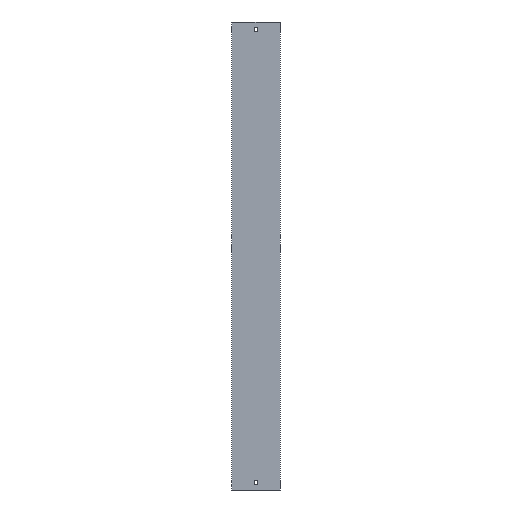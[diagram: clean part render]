
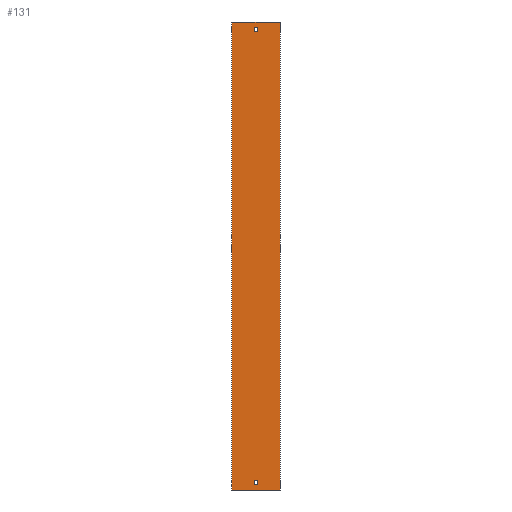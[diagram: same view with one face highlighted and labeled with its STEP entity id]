
A CAD part, front view. The second image highlights one B-rep face of the part: STEP entity #131.
In plain terms, the highlighted planar face has unit normal (0, -1, 0).
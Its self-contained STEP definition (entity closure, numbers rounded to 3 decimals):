
#17 = EDGE_CURVE ( 'NONE', #320, #835, #206, .T. ) ;
#28 = CARTESIAN_POINT ( 'NONE',  ( -3.25, 0., 488. ) ) ;
#37 = VERTEX_POINT ( 'NONE', #90 ) ;
#55 = VERTEX_POINT ( 'NONE', #223 ) ;
#58 = VECTOR ( 'NONE', #1559, 1000. ) ;
#88 = VERTEX_POINT ( 'NONE', #759 ) ;
#90 = CARTESIAN_POINT ( 'NONE',  ( -3.25, 0., -479. ) ) ;
#106 = DIRECTION ( 'NONE',  ( 1., 0., 0. ) ) ;
#126 = DIRECTION ( 'NONE',  ( 0., 0., -1. ) ) ;
#131 = ADVANCED_FACE ( 'NONE', ( #365, #768, #871 ), #1288, .F. ) ;
#178 = ORIENTED_EDGE ( 'NONE', *, *, #1424, .T. ) ;
#182 = LINE ( 'NONE', #456, #572 ) ;
#206 = LINE ( 'NONE', #972, #594 ) ;
#217 = VECTOR ( 'NONE', #126, 1000. ) ;
#223 = CARTESIAN_POINT ( 'NONE',  ( 3.25, 0., 479. ) ) ;
#226 = CARTESIAN_POINT ( 'NONE',  ( 52., 0., 500. ) ) ;
#234 = ORIENTED_EDGE ( 'NONE', *, *, #1678, .F. ) ;
#258 = CARTESIAN_POINT ( 'NONE',  ( 3.25, 0., 488. ) ) ;
#263 = EDGE_CURVE ( 'NONE', #1490, #320, #409, .T. ) ;
#268 = VECTOR ( 'NONE', #634, 1000. ) ;
#289 = LINE ( 'NONE', #1351, #1417 ) ;
#304 = CARTESIAN_POINT ( 'NONE',  ( -3.25, 0., 479. ) ) ;
#310 = CARTESIAN_POINT ( 'NONE',  ( 52., 0., -500. ) ) ;
#320 = VERTEX_POINT ( 'NONE', #1116 ) ;
#348 = AXIS2_PLACEMENT_3D ( 'NONE', #640, #1394, #373 ) ;
#357 = ORIENTED_EDGE ( 'NONE', *, *, #1159, .F. ) ;
#361 = LINE ( 'NONE', #1396, #1114 ) ;
#365 = FACE_OUTER_BOUND ( 'NONE', #1439, .T. ) ;
#368 = ORIENTED_EDGE ( 'NONE', *, *, #381, .T. ) ;
#373 = DIRECTION ( 'NONE',  ( -1., 0., 0. ) ) ;
#381 = EDGE_CURVE ( 'NONE', #1174, #1371, #1615, .T. ) ;
#383 = LINE ( 'NONE', #892, #217 ) ;
#384 = EDGE_LOOP ( 'NONE', ( #357, #1579, #668, #234 ) ) ;
#409 = LINE ( 'NONE', #28, #622 ) ;
#433 = VECTOR ( 'NONE', #443, 1000. ) ;
#443 = DIRECTION ( 'NONE',  ( 0., 0., -1. ) ) ;
#455 = EDGE_CURVE ( 'NONE', #867, #88, #509, .T. ) ;
#456 = CARTESIAN_POINT ( 'NONE',  ( -3.25, 0., 479. ) ) ;
#490 = VECTOR ( 'NONE', #1155, 1000. ) ;
#509 = LINE ( 'NONE', #1010, #1247 ) ;
#510 = LINE ( 'NONE', #1287, #490 ) ;
#572 = VECTOR ( 'NONE', #576, 1000. ) ;
#576 = DIRECTION ( 'NONE',  ( 1., 0., 0. ) ) ;
#589 = DIRECTION ( 'NONE',  ( 0., 0., -1. ) ) ;
#594 = VECTOR ( 'NONE', #589, 1000. ) ;
#622 = VECTOR ( 'NONE', #1449, 1000. ) ;
#634 = DIRECTION ( 'NONE',  ( 1., 0., 0. ) ) ;
#640 = CARTESIAN_POINT ( 'NONE',  ( -52., 0., 500. ) ) ;
#649 = CARTESIAN_POINT ( 'NONE',  ( -3.25, 0., -488. ) ) ;
#668 = ORIENTED_EDGE ( 'NONE', *, *, #263, .F. ) ;
#697 = CARTESIAN_POINT ( 'NONE',  ( 3.25, 0., -488. ) ) ;
#705 = VECTOR ( 'NONE', #1622, 1000. ) ;
#759 = CARTESIAN_POINT ( 'NONE',  ( -52., 0., -500. ) ) ;
#768 = FACE_BOUND ( 'NONE', #384, .T. ) ;
#824 = CARTESIAN_POINT ( 'NONE',  ( 52., 0., 500. ) ) ;
#826 = CARTESIAN_POINT ( 'NONE',  ( -3.25, 0., -488. ) ) ;
#835 = VERTEX_POINT ( 'NONE', #304 ) ;
#838 = EDGE_CURVE ( 'NONE', #932, #1568, #1605, .T. ) ;
#848 = VERTEX_POINT ( 'NONE', #1489 ) ;
#867 = VERTEX_POINT ( 'NONE', #1537 ) ;
#871 = FACE_BOUND ( 'NONE', #1435, .T. ) ;
#892 = CARTESIAN_POINT ( 'NONE',  ( 3.25, 0., -488. ) ) ;
#932 = VERTEX_POINT ( 'NONE', #226 ) ;
#942 = ORIENTED_EDGE ( 'NONE', *, *, #1674, .T. ) ;
#972 = CARTESIAN_POINT ( 'NONE',  ( -3.25, 0., 488. ) ) ;
#1010 = CARTESIAN_POINT ( 'NONE',  ( -52., 0., 500. ) ) ;
#1109 = CARTESIAN_POINT ( 'NONE',  ( -3.25, 0., -488. ) ) ;
#1114 = VECTOR ( 'NONE', #106, 1000. ) ;
#1116 = CARTESIAN_POINT ( 'NONE',  ( -3.25, 0., 488. ) ) ;
#1130 = DIRECTION ( 'NONE',  ( 0., 0., -1. ) ) ;
#1137 = ORIENTED_EDGE ( 'NONE', *, *, #1476, .F. ) ;
#1155 = DIRECTION ( 'NONE',  ( 0., 0., 1. ) ) ;
#1159 = EDGE_CURVE ( 'NONE', #835, #55, #182, .T. ) ;
#1174 = VERTEX_POINT ( 'NONE', #697 ) ;
#1247 = VECTOR ( 'NONE', #1130, 1000. ) ;
#1282 = LINE ( 'NONE', #649, #58 ) ;
#1287 = CARTESIAN_POINT ( 'NONE',  ( 3.25, 0., 488. ) ) ;
#1288 = PLANE ( 'NONE',  #348 ) ;
#1297 = EDGE_CURVE ( 'NONE', #37, #848, #361, .T. ) ;
#1351 = CARTESIAN_POINT ( 'NONE',  ( -52., 0., -500. ) ) ;
#1371 = VERTEX_POINT ( 'NONE', #1109 ) ;
#1394 = DIRECTION ( 'NONE',  ( 0., 1., 0. ) ) ;
#1396 = CARTESIAN_POINT ( 'NONE',  ( -3.25, 0., -479. ) ) ;
#1417 = VECTOR ( 'NONE', #1584, 1000. ) ;
#1421 = ORIENTED_EDGE ( 'NONE', *, *, #1297, .T. ) ;
#1424 = EDGE_CURVE ( 'NONE', #1371, #37, #1282, .T. ) ;
#1427 = CARTESIAN_POINT ( 'NONE',  ( -52., 0., 500. ) ) ;
#1435 = EDGE_LOOP ( 'NONE', ( #178, #1421, #942, #368 ) ) ;
#1439 = EDGE_LOOP ( 'NONE', ( #1465, #1504, #1137, #1502 ) ) ;
#1443 = LINE ( 'NONE', #1427, #268 ) ;
#1449 = DIRECTION ( 'NONE',  ( -1., 0., 0. ) ) ;
#1465 = ORIENTED_EDGE ( 'NONE', *, *, #1535, .T. ) ;
#1476 = EDGE_CURVE ( 'NONE', #867, #932, #1443, .T. ) ;
#1489 = CARTESIAN_POINT ( 'NONE',  ( 3.25, 0., -479. ) ) ;
#1490 = VERTEX_POINT ( 'NONE', #258 ) ;
#1502 = ORIENTED_EDGE ( 'NONE', *, *, #455, .T. ) ;
#1504 = ORIENTED_EDGE ( 'NONE', *, *, #838, .F. ) ;
#1535 = EDGE_CURVE ( 'NONE', #88, #1568, #289, .T. ) ;
#1537 = CARTESIAN_POINT ( 'NONE',  ( -52., 0., 500. ) ) ;
#1559 = DIRECTION ( 'NONE',  ( 0., 0., 1. ) ) ;
#1568 = VERTEX_POINT ( 'NONE', #310 ) ;
#1579 = ORIENTED_EDGE ( 'NONE', *, *, #17, .F. ) ;
#1584 = DIRECTION ( 'NONE',  ( 1., 0., 0. ) ) ;
#1605 = LINE ( 'NONE', #824, #433 ) ;
#1615 = LINE ( 'NONE', #826, #705 ) ;
#1622 = DIRECTION ( 'NONE',  ( -1., 0., 0. ) ) ;
#1674 = EDGE_CURVE ( 'NONE', #848, #1174, #383, .T. ) ;
#1678 = EDGE_CURVE ( 'NONE', #55, #1490, #510, .T. ) ;
